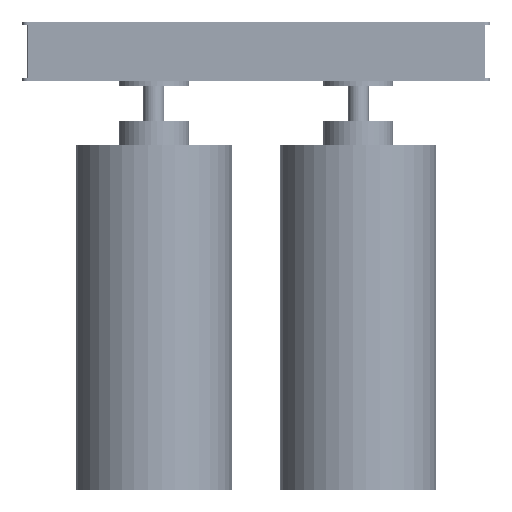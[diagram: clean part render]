
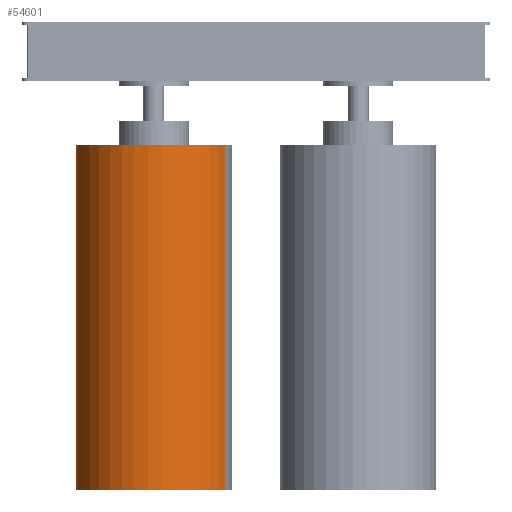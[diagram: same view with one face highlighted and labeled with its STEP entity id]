
A CAD part, left-side view. The second image highlights one B-rep face of the part: STEP entity #54601.
In plain terms, the highlighted cylindrical face has radius 133.5 mm (diameter 267 mm), a partial arc.
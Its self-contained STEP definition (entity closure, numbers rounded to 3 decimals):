
#108 = CARTESIAN_POINT ( 'NONE',  ( -215.127, 323.278, -112.5 ) ) ;
#666 = DIRECTION ( 'NONE',  ( 0., 0., 1. ) ) ;
#7259 = CARTESIAN_POINT ( 'NONE',  ( -269.868, 201.517, -112.5 ) ) ;
#14043 = CARTESIAN_POINT ( 'NONE',  ( -215.127, 323.278, -112.5 ) ) ;
#16818 = ORIENTED_EDGE ( 'NONE', *, *, #95768, .F. ) ;
#20919 = ORIENTED_EDGE ( 'NONE', *, *, #30718, .F. ) ;
#21964 = VECTOR ( 'NONE', #91349, 1000. ) ;
#25929 = AXIS2_PLACEMENT_3D ( 'NONE', #58541, #81227, #53105 ) ;
#28074 = VERTEX_POINT ( 'NONE', #55893 ) ;
#30718 = EDGE_CURVE ( 'NONE', #61424, #28074, #41713, .T. ) ;
#31213 = LINE ( 'NONE', #108, #21964 ) ;
#32462 = EDGE_CURVE ( 'NONE', #61953, #92548, #73920, .T. ) ;
#32747 = EDGE_CURVE ( 'NONE', #61424, #61953, #31213, .T. ) ;
#38029 = CARTESIAN_POINT ( 'NONE',  ( -324.608, 79.756, -702.5 ) ) ;
#38677 = CARTESIAN_POINT ( 'NONE',  ( -269.868, 201.517, -702.5 ) ) ;
#39066 = CARTESIAN_POINT ( 'NONE',  ( -215.127, 323.278, -702.5 ) ) ;
#41713 = CIRCLE ( 'NONE', #25929, 133.5 ) ;
#44814 = VECTOR ( 'NONE', #91954, 1000. ) ;
#45254 = CYLINDRICAL_SURFACE ( 'NONE', #95051, 133.5 ) ;
#51684 = DIRECTION ( 'NONE',  ( 0.41, 0.912, 0. ) ) ;
#53004 = DIRECTION ( 'NONE',  ( -0.41, -0.912, 0. ) ) ;
#53105 = DIRECTION ( 'NONE',  ( -0.41, -0.912, 0. ) ) ;
#54601 = ADVANCED_FACE ( 'NONE', ( #96543 ), #45254, .T. ) ;
#55893 = CARTESIAN_POINT ( 'NONE',  ( -324.608, 79.756, -112.5 ) ) ;
#58541 = CARTESIAN_POINT ( 'NONE',  ( -269.868, 201.517, -112.5 ) ) ;
#60426 = LINE ( 'NONE', #61368, #44814 ) ;
#61368 = CARTESIAN_POINT ( 'NONE',  ( -324.608, 79.756, -112.5 ) ) ;
#61424 = VERTEX_POINT ( 'NONE', #14043 ) ;
#61953 = VERTEX_POINT ( 'NONE', #39066 ) ;
#64392 = ORIENTED_EDGE ( 'NONE', *, *, #32747, .T. ) ;
#68508 = ORIENTED_EDGE ( 'NONE', *, *, #32462, .T. ) ;
#69194 = AXIS2_PLACEMENT_3D ( 'NONE', #38677, #666, #53004 ) ;
#73920 = CIRCLE ( 'NONE', #69194, 133.5 ) ;
#81227 = DIRECTION ( 'NONE',  ( 0., 0., 1. ) ) ;
#89142 = DIRECTION ( 'NONE',  ( 0., 0., -1. ) ) ;
#91349 = DIRECTION ( 'NONE',  ( 0., 0., -1. ) ) ;
#91564 = EDGE_LOOP ( 'NONE', ( #16818, #20919, #64392, #68508 ) ) ;
#91954 = DIRECTION ( 'NONE',  ( 0., 0., -1. ) ) ;
#92548 = VERTEX_POINT ( 'NONE', #38029 ) ;
#95051 = AXIS2_PLACEMENT_3D ( 'NONE', #7259, #89142, #51684 ) ;
#95768 = EDGE_CURVE ( 'NONE', #28074, #92548, #60426, .T. ) ;
#96543 = FACE_OUTER_BOUND ( 'NONE', #91564, .T. ) ;
